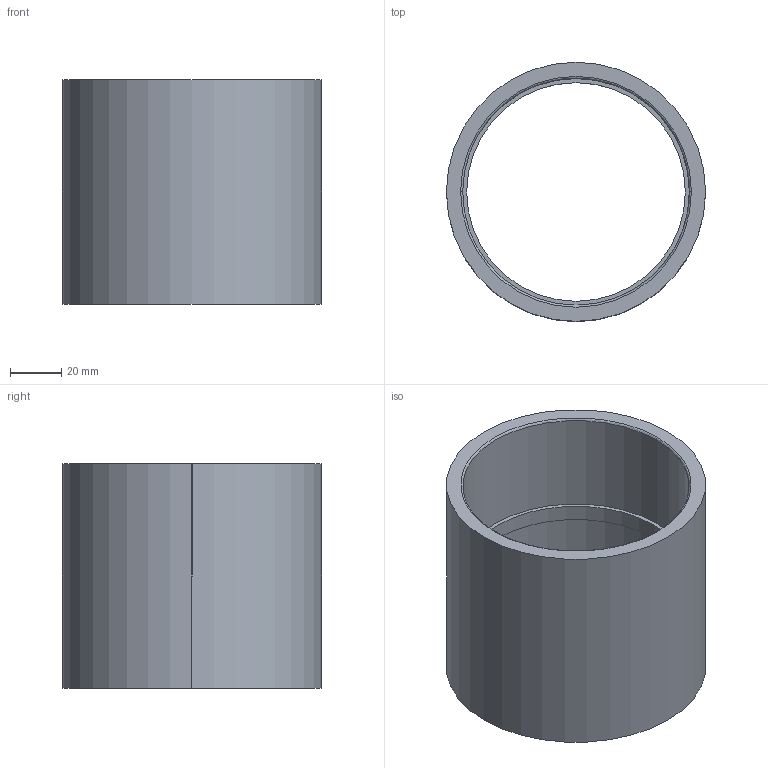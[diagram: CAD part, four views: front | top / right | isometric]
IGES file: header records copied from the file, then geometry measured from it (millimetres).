
Global section: file name: C:\Documents and Settings\Administrator\Desktop\Transfer Temp\coupling3inch.igs; native system: AutoDesk Inventor R2.0 ; preprocessor: AutoDesk Inventor Iges Exporter R2.0; author: No Author specified; organization: No Organization specified; date: 20020103.132645; units: inch
Bounding box: 101.6 x 101.6 x 87.88 mm (x, y, z)
Surface area: 57014.4 mm2 (no closed solid volume)
Topology: 0 solids, 0 shells, 16 faces, 64 edges, 64 vertices
Faces by surface type: revolution 12, bspline 4
